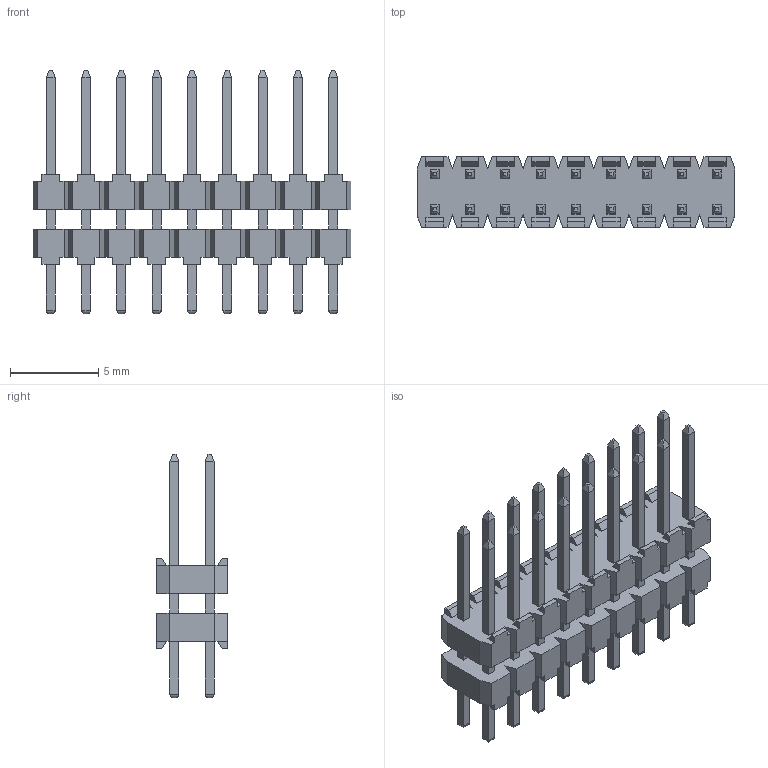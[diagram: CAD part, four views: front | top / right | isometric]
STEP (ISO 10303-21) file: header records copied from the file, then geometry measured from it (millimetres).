
FILE_DESCRIPTION(/* description */ (''),/* implementation_level */ '2;1');
FILE_NAME(/* name */ '951418-8061106-AR',/* time_stamp */ '2007-03-14T10:54:58+01:00',/* author */ (''),/* organization */ (''),/* preprocessor_version */ 'ST-DEVELOPER v9',/* originating_system */ 'UGS - NX 4.0',/* authorisation */ '');
FILE_SCHEMA (('AUTOMOTIVE_DESIGN { 1 0 10303 214 1 1 1 1 }'));
Length unit declared in the file: millimetre
Products named in the file (1): 951418-8061106-AR
Bounding box: 18 x 4 x 13.8 mm (x, y, z)
Volume: 273 mm3; surface area: 860.4 mm2
Topology: 1 solids, 1 shells, 656 faces, 1704 edges, 1088 vertices
Faces by surface type: plane 584, cylinder 72
Entity records: 19600 total; most frequent: CARTESIAN_POINT 3449, ORIENTED_EDGE 3408, DIRECTION 3090, EDGE_CURVE 1704, LINE 1632, VECTOR 1632, VERTEX_POINT 1088, AXIS2_PLACEMENT_3D 729
